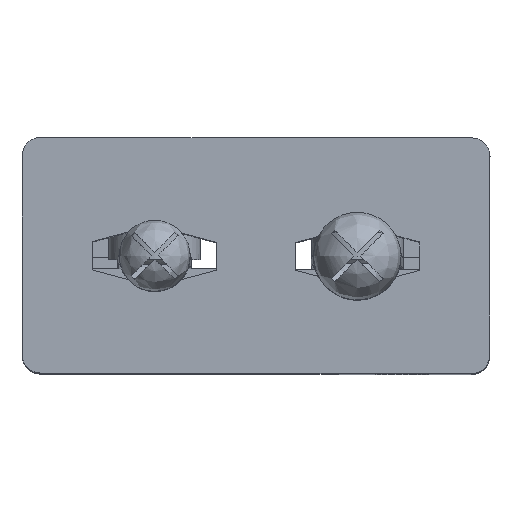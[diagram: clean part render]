
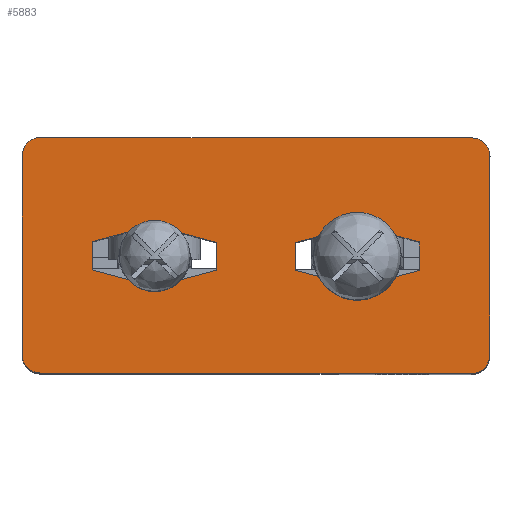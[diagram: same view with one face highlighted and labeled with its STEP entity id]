
A CAD part, top view. The second image highlights one B-rep face of the part: STEP entity #5883.
In plain terms, the highlighted planar face has unit normal (0, 0, 1).
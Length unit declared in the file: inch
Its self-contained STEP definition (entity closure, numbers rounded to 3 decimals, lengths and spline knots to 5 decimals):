
#108=FACE_BOUND('',#802,.T.);
#109=FACE_BOUND('',#803,.T.);
#170=PLANE('',#6304);
#477=FACE_OUTER_BOUND('',#801,.T.);
#801=EDGE_LOOP('',(#4072,#4073,#4074,#4075,#4076,#4077,#4078,#4079));
#802=EDGE_LOOP('',(#4080,#4081,#4082,#4083,#4084,#4085,#4086,#4087));
#803=EDGE_LOOP('',(#4088,#4089,#4090,#4091,#4092,#4093,#4094,#4095));
#1200=LINE('',#8990,#1655);
#1210=LINE('',#9013,#1665);
#1220=LINE('',#9045,#1675);
#1223=LINE('',#9051,#1678);
#1226=LINE('',#9056,#1681);
#1227=LINE('',#9059,#1682);
#1230=LINE('',#9065,#1685);
#1232=LINE('',#9068,#1687);
#1233=LINE('',#9072,#1688);
#1234=LINE('',#9076,#1689);
#1235=LINE('',#9082,#1690);
#1236=LINE('',#9084,#1691);
#1237=LINE('',#9086,#1692);
#1238=LINE('',#9090,#1693);
#1239=LINE('',#9092,#1694);
#1240=LINE('',#9094,#1695);
#1655=VECTOR('',#7107,0.3937);
#1665=VECTOR('',#7125,0.3937);
#1675=VECTOR('',#7153,0.3937);
#1678=VECTOR('',#7158,0.3937);
#1681=VECTOR('',#7163,0.3937);
#1682=VECTOR('',#7166,0.3937);
#1685=VECTOR('',#7171,0.3937);
#1687=VECTOR('',#7175,0.3937);
#1688=VECTOR('',#7180,0.3937);
#1689=VECTOR('',#7183,0.3937);
#1690=VECTOR('',#7190,0.3937);
#1691=VECTOR('',#7191,0.3937);
#1692=VECTOR('',#7192,0.3937);
#1693=VECTOR('',#7195,0.3937);
#1694=VECTOR('',#7196,0.3937);
#1695=VECTOR('',#7197,0.3937);
#2027=CIRCLE('',#6244,0.03937);
#2056=CIRCLE('',#6305,0.03937);
#2057=CIRCLE('',#6306,0.03937);
#2058=CIRCLE('',#6307,0.03937);
#2059=CIRCLE('',#6308,0.07579);
#2060=CIRCLE('',#6309,0.07579);
#2061=CIRCLE('',#6310,0.0935);
#2062=CIRCLE('',#6311,0.0935);
#2380=VERTEX_POINT('',#8824);
#2381=VERTEX_POINT('',#8826);
#2441=VERTEX_POINT('',#8986);
#2443=VERTEX_POINT('',#8989);
#2452=VERTEX_POINT('',#9011);
#2464=VERTEX_POINT('',#9042);
#2465=VERTEX_POINT('',#9044);
#2466=VERTEX_POINT('',#9048);
#2467=VERTEX_POINT('',#9050);
#2468=VERTEX_POINT('',#9054);
#2469=VERTEX_POINT('',#9058);
#2470=VERTEX_POINT('',#9062);
#2471=VERTEX_POINT('',#9064);
#2472=VERTEX_POINT('',#9070);
#2473=VERTEX_POINT('',#9073);
#2474=VERTEX_POINT('',#9075);
#2475=VERTEX_POINT('',#9080);
#2476=VERTEX_POINT('',#9081);
#2477=VERTEX_POINT('',#9083);
#2478=VERTEX_POINT('',#9085);
#2479=VERTEX_POINT('',#9087);
#2480=VERTEX_POINT('',#9089);
#2481=VERTEX_POINT('',#9091);
#2482=VERTEX_POINT('',#9093);
#2966=EDGE_CURVE('',#2380,#2381,#2027,.T.);
#3046=EDGE_CURVE('',#2441,#2443,#1200,.T.);
#3058=EDGE_CURVE('',#2452,#2380,#1210,.T.);
#3074=EDGE_CURVE('',#2465,#2464,#1220,.T.);
#3077=EDGE_CURVE('',#2467,#2466,#1223,.T.);
#3080=EDGE_CURVE('',#2466,#2468,#1226,.T.);
#3081=EDGE_CURVE('',#2469,#2467,#1227,.T.);
#3084=EDGE_CURVE('',#2471,#2470,#1230,.T.);
#3086=EDGE_CURVE('',#2470,#2465,#1232,.T.);
#3087=EDGE_CURVE('',#2472,#2441,#2056,.T.);
#3088=EDGE_CURVE('',#2472,#2381,#1233,.T.);
#3089=EDGE_CURVE('',#2473,#2452,#2057,.T.);
#3090=EDGE_CURVE('',#2474,#2473,#1234,.T.);
#3091=EDGE_CURVE('',#2443,#2474,#2058,.T.);
#3092=EDGE_CURVE('',#2468,#2471,#2059,.T.);
#3093=EDGE_CURVE('',#2464,#2469,#2060,.T.);
#3094=EDGE_CURVE('',#2475,#2476,#1235,.T.);
#3095=EDGE_CURVE('',#2476,#2477,#1236,.T.);
#3096=EDGE_CURVE('',#2477,#2478,#1237,.T.);
#3097=EDGE_CURVE('',#2478,#2479,#2061,.T.);
#3098=EDGE_CURVE('',#2479,#2480,#1238,.T.);
#3099=EDGE_CURVE('',#2480,#2481,#1239,.T.);
#3100=EDGE_CURVE('',#2481,#2482,#1240,.T.);
#3101=EDGE_CURVE('',#2482,#2475,#2062,.T.);
#4072=ORIENTED_EDGE('',*,*,#3087,.F.);
#4073=ORIENTED_EDGE('',*,*,#3088,.T.);
#4074=ORIENTED_EDGE('',*,*,#2966,.F.);
#4075=ORIENTED_EDGE('',*,*,#3058,.F.);
#4076=ORIENTED_EDGE('',*,*,#3089,.F.);
#4077=ORIENTED_EDGE('',*,*,#3090,.F.);
#4078=ORIENTED_EDGE('',*,*,#3091,.F.);
#4079=ORIENTED_EDGE('',*,*,#3046,.F.);
#4080=ORIENTED_EDGE('',*,*,#3081,.T.);
#4081=ORIENTED_EDGE('',*,*,#3077,.T.);
#4082=ORIENTED_EDGE('',*,*,#3080,.T.);
#4083=ORIENTED_EDGE('',*,*,#3092,.T.);
#4084=ORIENTED_EDGE('',*,*,#3084,.T.);
#4085=ORIENTED_EDGE('',*,*,#3086,.T.);
#4086=ORIENTED_EDGE('',*,*,#3074,.T.);
#4087=ORIENTED_EDGE('',*,*,#3093,.T.);
#4088=ORIENTED_EDGE('',*,*,#3094,.T.);
#4089=ORIENTED_EDGE('',*,*,#3095,.T.);
#4090=ORIENTED_EDGE('',*,*,#3096,.T.);
#4091=ORIENTED_EDGE('',*,*,#3097,.T.);
#4092=ORIENTED_EDGE('',*,*,#3098,.T.);
#4093=ORIENTED_EDGE('',*,*,#3099,.T.);
#4094=ORIENTED_EDGE('',*,*,#3100,.T.);
#4095=ORIENTED_EDGE('',*,*,#3101,.T.);
#5883=ADVANCED_FACE('',(#477,#108,#109),#170,.T.);
#6244=AXIS2_PLACEMENT_3D('',#8827,#6964,#6965);
#6304=AXIS2_PLACEMENT_3D('',#9069,#7176,#7177);
#6305=AXIS2_PLACEMENT_3D('',#9071,#7178,#7179);
#6306=AXIS2_PLACEMENT_3D('',#9074,#7181,#7182);
#6307=AXIS2_PLACEMENT_3D('',#9077,#7184,#7185);
#6308=AXIS2_PLACEMENT_3D('',#9078,#7186,#7187);
#6309=AXIS2_PLACEMENT_3D('',#9079,#7188,#7189);
#6310=AXIS2_PLACEMENT_3D('',#9088,#7193,#7194);
#6311=AXIS2_PLACEMENT_3D('',#9095,#7198,#7199);
#6964=DIRECTION('center_axis',(0.,0.,
-1.));
#6965=DIRECTION('ref_axis',(0.708,0.706,0.));
#7107=DIRECTION('',(-1.,0.001,0.));
#7125=DIRECTION('',(1.,-0.001,0.));
#7153=DIRECTION('',(-0.966,-0.258,0.));
#7158=DIRECTION('',(0.001,1.,0.));
#7163=DIRECTION('',(0.966,0.258,0.));
#7166=DIRECTION('',(-0.966,0.26,0.));
#7171=DIRECTION('',(0.966,-0.26,0.));
#7175=DIRECTION('',(-0.001,-1.,0.));
#7176=DIRECTION('center_axis',(0.,0.,
1.));
#7177=DIRECTION('ref_axis',(1.,-0.001,0.));
#7178=DIRECTION('center_axis',(0.,0.,
-1.));
#7179=DIRECTION('ref_axis',(0.706,-0.708,0.));
#7180=DIRECTION('',(0.001,1.,0.));
#7181=DIRECTION('center_axis',(0.,0.,
-1.));
#7182=DIRECTION('ref_axis',(-0.706,0.708,0.));
#7183=DIRECTION('',(0.001,1.,0.));
#7184=DIRECTION('center_axis',(0.,0.,
-1.));
#7185=DIRECTION('ref_axis',(-0.708,-0.706,0.));
#7186=DIRECTION('center_axis',(0.,0.,
-1.));
#7187=DIRECTION('ref_axis',(1.,-0.001,0.));
#7188=DIRECTION('center_axis',(0.,0.,
-1.));
#7189=DIRECTION('ref_axis',(1.,-0.001,0.));
#7190=DIRECTION('',(-0.966,0.26,0.));
#7191=DIRECTION('',(0.001,1.,0.));
#7192=DIRECTION('',(0.966,0.258,0.));
#7193=DIRECTION('center_axis',(0.,0.,
-1.));
#7194=DIRECTION('ref_axis',(1.,-0.001,0.));
#7195=DIRECTION('',(0.966,-0.26,0.));
#7196=DIRECTION('',(-0.001,-1.,0.));
#7197=DIRECTION('',(-0.966,-0.258,0.));
#7198=DIRECTION('center_axis',(0.,0.,
-1.));
#7199=DIRECTION('ref_axis',(1.,-0.001,0.));
#8824=CARTESIAN_POINT('',(0.4057,-0.21275,1.31753));
#8826=CARTESIAN_POINT('',(0.44503,-0.25216,1.31753));
#8827=CARTESIAN_POINT('Origin',(0.40566,-0.25212,1.31753));
#8986=CARTESIAN_POINT('',(0.4051,-0.71668,1.31753));
#8989=CARTESIAN_POINT('',(-0.51616,-0.71558,1.31753));
#8990=CARTESIAN_POINT('',(-0.55553,-0.71554,1.31753));
#9011=CARTESIAN_POINT('',(-0.51556,-0.21165,1.31753));
#9013=CARTESIAN_POINT('',(-0.55493,-0.2116,1.31753));
#9042=CARTESIAN_POINT('',(-0.21472,-0.51577,1.31753));
#9044=CARTESIAN_POINT('',(-0.13893,-0.49556,1.31753));
#9045=CARTESIAN_POINT('',(-0.32928,-0.54632,1.31753));
#9048=CARTESIAN_POINT('',(-0.4046,-0.43446,1.31753));
#9050=CARTESIAN_POINT('',(-0.40467,-0.49524,1.31753));
#9051=CARTESIAN_POINT('',(-0.40465,-0.4795,1.31753));
#9054=CARTESIAN_POINT('',(-0.32673,-0.41369,1.31753));
#9056=CARTESIAN_POINT('',(-0.47854,-0.45418,1.31753));
#9058=CARTESIAN_POINT('',(-0.32893,-0.51564,1.31753));
#9059=CARTESIAN_POINT('',(-0.44097,-0.48547,1.31753));
#9062=CARTESIAN_POINT('',(-0.13886,-0.43651,1.31753));
#9064=CARTESIAN_POINT('',(-0.2146,-0.41611,1.31753));
#9065=CARTESIAN_POINT('',(-0.36745,-0.37496,1.31753));
#9068=CARTESIAN_POINT('',(-0.13888,-0.45029,1.31753));
#9069=CARTESIAN_POINT('Origin',(-0.55523,-0.46357,1.31753));
#9070=CARTESIAN_POINT('',(0.44452,-0.67736,1.31753));
#9071=CARTESIAN_POINT('Origin',(0.40515,-0.67731,1.31753));
#9072=CARTESIAN_POINT('',(0.44477,-0.46476,1.31753));
#9073=CARTESIAN_POINT('',(-0.55497,-0.25097,1.31753));
#9074=CARTESIAN_POINT('Origin',(-0.5156,-0.25102,1.31753));
#9075=CARTESIAN_POINT('',(-0.55548,-0.67617,1.31753));
#9076=CARTESIAN_POINT('',(-0.55523,-0.46357,1.31753));
#9077=CARTESIAN_POINT('Origin',(-0.51611,-0.67621,1.31753));
#9078=CARTESIAN_POINT('Origin',(-0.27177,-0.46588,1.31753));
#9079=CARTESIAN_POINT('Origin',(-0.27177,-0.46588,1.31753));
#9080=CARTESIAN_POINT('',(0.07815,-0.50916,1.31753));
#9081=CARTESIAN_POINT('',(0.0284,-0.49576,1.31753));
#9082=CARTESIAN_POINT('',(-0.24773,-0.42142,1.31753));
#9083=CARTESIAN_POINT('',(0.02847,-0.43671,1.31753));
#9084=CARTESIAN_POINT('',(0.02845,-0.45049,1.31753));
#9085=CARTESIAN_POINT('',(0.07826,-0.42343,1.31753));
#9086=CARTESIAN_POINT('',(-0.20945,-0.50015,1.31753));
#9087=CARTESIAN_POINT('',(0.24339,-0.42161,1.31753));
#9088=CARTESIAN_POINT('Origin',(0.1613,-0.46639,1.31753));
#9089=CARTESIAN_POINT('',(0.29421,-0.43529,1.31753));
#9090=CARTESIAN_POINT('',(-0.09825,-0.32963,1.31753));
#9091=CARTESIAN_POINT('',(0.29414,-0.49608,1.31753));
#9092=CARTESIAN_POINT('',(0.29416,-0.48033,1.31753));
#9093=CARTESIAN_POINT('',(0.24435,-0.50936,1.31753));
#9094=CARTESIAN_POINT('',(-0.1362,-0.61084,1.31753));
#9095=CARTESIAN_POINT('Origin',(0.1613,-0.46639,1.31753));
